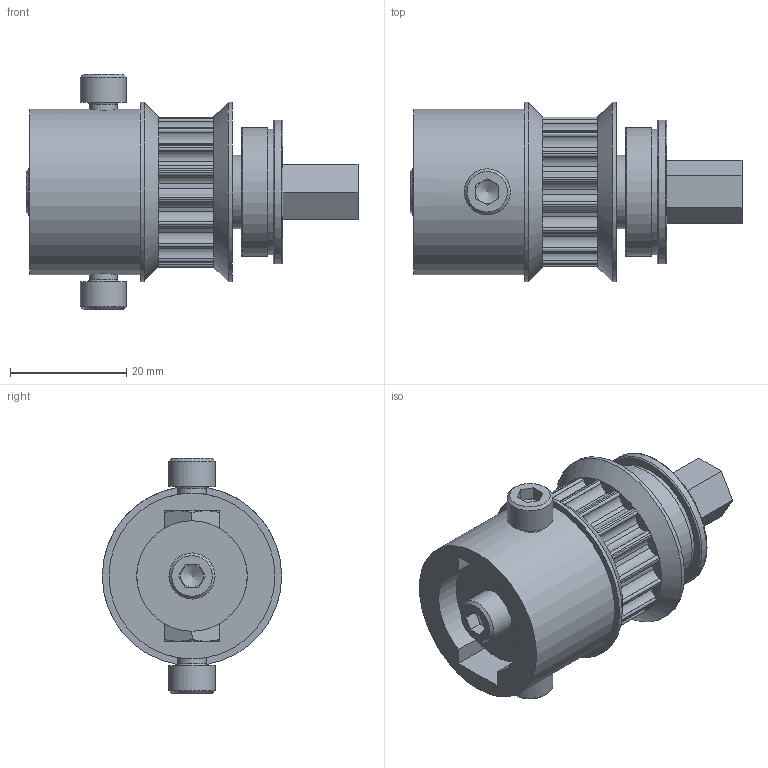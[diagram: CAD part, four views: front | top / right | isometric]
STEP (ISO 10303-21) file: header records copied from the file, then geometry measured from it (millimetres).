
FILE_DESCRIPTION(/* description */ ('STEP AP242 Edition 2','CAx-IF Rec.Pracs.---Representation and Presentation of Product Manufacturing Information (PMI)---4.0---2014-10-13','CAx-IF Rec.Pracs.---3D Tessellated Geometry---0.4---2014-09-14','2;1','CAx-IF Rec.Pracs.---User Defined Attributes---1.5---2016-08-15'),/* implementation_level */ '2;1');
FILE_NAME(/* name */ '69319dab2aade48f1d454b07',/* time_stamp */ '2025-12-04T14:41:48Z',/* author */ (''),/* organization */ (''),/* preprocessor_version */ 'ST-DEVELOPER v20',/* originating_system */ 'ONSHAPE BY PTC INC, 1.207',/* authorisation */ ' ');
FILE_SCHEMA (('AP242_MANAGED_MODEL_BASED_3D_ENGINEERING_MIM_LF { 1 0 10303 442 3 1 4 }'));
Length unit declared in the file: metre
Products named in the file (8): Live Axle Roller Assembly; am-1744; am-4489 FR6 2RS-Hex HD Bearing; 17T Live Axle Roller Insert; am-1359; am-1523; am-1063 10-32 Nylock Jam Nut; am-5003-0200
Assembly tree (9 placements, depth 2):
  Live Axle Roller Assembly
    am-1744
    am-4489 FR6 2RS-Hex HD Bearing
    17T Live Axle Roller Insert
    am-1359  x2
    am-1523
    am-1063 10-32 Nylock Jam Nut  x2
    am-5003-0200
Bounding box: 57.21 x 30.91 x 40.57 mm (x, y, z)
Volume: 22360.3 mm3; surface area: 13457.3 mm2
Topology: 9 solids, 9 shells, 405 faces, 980 edges, 609 vertices
Faces by surface type: plane 179, cylinder 151, cone 65, torus 10
Full cylindrical faces by diameter (mm): 4.039 x2, 4.178 x6, 4.826 x11, 5.105 x2, 5.563 x1, 6.08 x2, 7.938 x3, 12.7 x1, 14.732 x2, 19.05 x3, 21.59 x1, 22.225 x1, 24.714 x1, 28.575 x1, 30.913 x2
Entity records: 9714 total; most frequent: CARTESIAN_POINT 1837, DIRECTION 1712, ORIENTED_EDGE 1468, EDGE_CURVE 734, AXIS2_PLACEMENT_3D 690, VERTEX_POINT 484, FACE_BOUND 416, EDGE_LOOP 414
